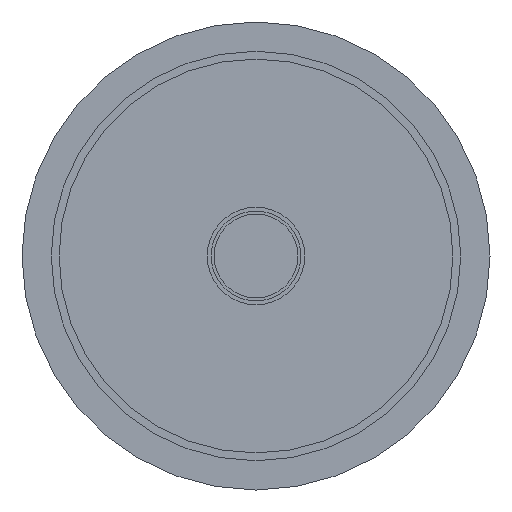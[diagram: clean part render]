
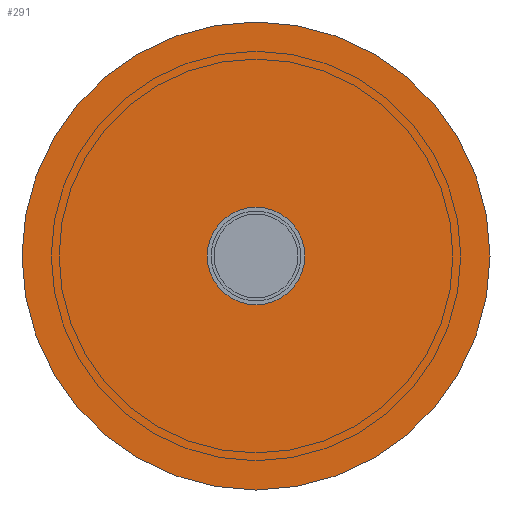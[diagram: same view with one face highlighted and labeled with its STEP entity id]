
A CAD part, front view. The second image highlights one B-rep face of the part: STEP entity #291.
In plain terms, the highlighted planar face has unit normal (0, -1, 0).
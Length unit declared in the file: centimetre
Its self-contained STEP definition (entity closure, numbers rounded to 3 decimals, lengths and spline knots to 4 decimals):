
#36=PLANE('',#332);
#52=FACE_BOUND('',#112,.T.);
#77=FACE_OUTER_BOUND('',#111,.T.);
#111=EDGE_LOOP('',(#236));
#112=EDGE_LOOP('',(#237));
#154=CIRCLE('',#331,0.75);
#155=CIRCLE('',#333,6.);
#179=VERTEX_POINT('',#499);
#180=VERTEX_POINT('',#502);
#204=EDGE_CURVE('',#179,#179,#154,.T.);
#205=EDGE_CURVE('',#180,#180,#155,.T.);
#236=ORIENTED_EDGE('',*,*,#205,.T.);
#237=ORIENTED_EDGE('',*,*,#204,.T.);
#291=ADVANCED_FACE('',(#77,#52),#36,.F.);
#331=AXIS2_PLACEMENT_3D('',#500,#403,#404);
#332=AXIS2_PLACEMENT_3D('',#501,#405,#406);
#333=AXIS2_PLACEMENT_3D('',#503,#407,#408);
#403=DIRECTION('center_axis',(0.,1.,0.));
#404=DIRECTION('ref_axis',(-1.,0.,0.));
#405=DIRECTION('center_axis',(0.,1.,0.));
#406=DIRECTION('ref_axis',(0.,0.,-1.));
#407=DIRECTION('center_axis',(0.,-1.,0.));
#408=DIRECTION('ref_axis',(-1.,0.,0.));
#499=CARTESIAN_POINT('',(-0.4,374.9,-0.6344));
#500=CARTESIAN_POINT('Origin',(0.,374.9,0.));
#501=CARTESIAN_POINT('Origin',(0.,374.9,0.));
#502=CARTESIAN_POINT('',(6.,374.9,0.));
#503=CARTESIAN_POINT('Origin',(0.,374.9,0.));
